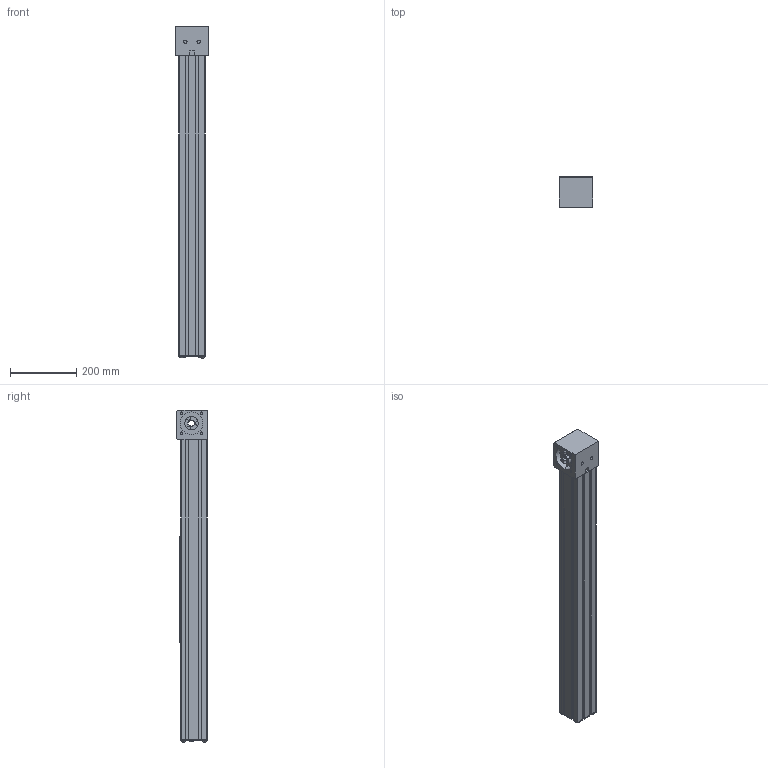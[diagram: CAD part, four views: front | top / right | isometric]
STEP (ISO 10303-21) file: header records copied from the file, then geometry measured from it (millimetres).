
FILE_DESCRIPTION (( 'STEP AP214' ), '1' );
FILE_NAME ('LLN80.STEP', '2022-06-24T08:54:30', ( '' ), ( '' ), 'SwSTEP 2.0', 'SolidWorks 2020', '' );
FILE_SCHEMA (( 'AUTOMOTIVE_DESIGN' ));
Length unit declared in the file: millimetre
Products named in the file (5): carriage^LLN80_carriage version 0; LLN80; profile^LLN80; end plate^LLN80; timing belt reverse unit^LLN80_2x coupling claw
Assembly tree (4 placements, depth 2):
  LLN80
    profile^LLN80
    carriage^LLN80_carriage version 0
    timing belt reverse unit^LLN80_2x coupling claw
    end plate^LLN80
Bounding box: 100 x 93 x 999.2 mm (x, y, z)
Volume: 4947700.3 mm3; surface area: 717460.5 mm2
Topology: 7 solids, 7 shells, 489 faces, 1268 edges, 840 vertices
Faces by surface type: plane 348, cylinder 109, bspline 24, cone 8
Entity records: 17522 total; most frequent: CARTESIAN_POINT 4892, ORIENTED_EDGE 2536, DIRECTION 2386, EDGE_CURVE 1268, VECTOR 974, LINE 974, VERTEX_POINT 840, AXIS2_PLACEMENT_3D 706
